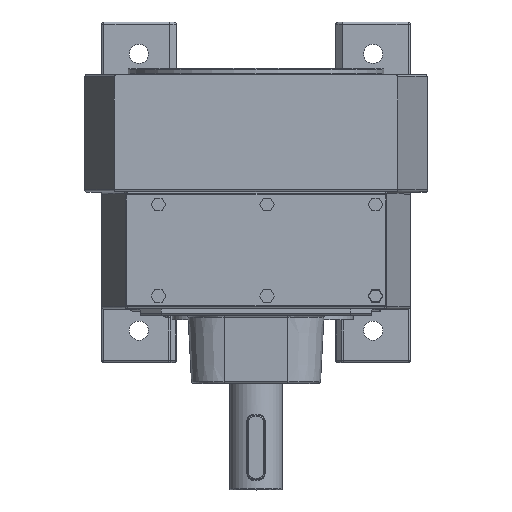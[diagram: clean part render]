
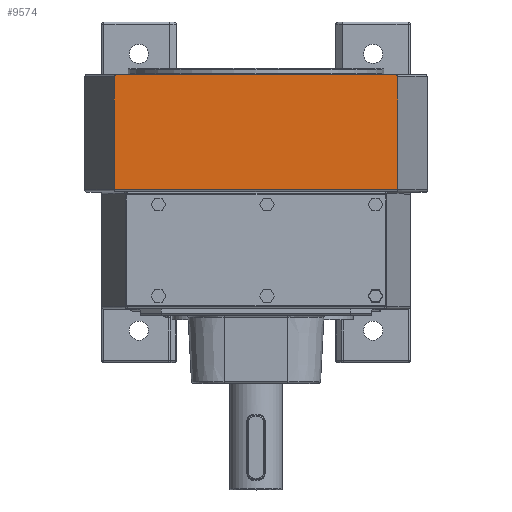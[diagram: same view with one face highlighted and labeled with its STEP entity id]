
A CAD part, top view. The second image highlights one B-rep face of the part: STEP entity #9574.
In plain terms, the highlighted planar face has unit normal (0, 0, 1).
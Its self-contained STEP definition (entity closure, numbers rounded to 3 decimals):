
#1303=CARTESIAN_POINT('',(-66.5,54.0,151.0));
#1304=VERTEX_POINT('',#1303);
#1305=CARTESIAN_POINT('',(-65.419,55.0,151.0));
#1306=VERTEX_POINT('',#1305);
#1307=CARTESIAN_POINT('',(-65.419,54.0,151.));
#1308=DIRECTION('',(0.0,0.0,-1.0));
#1309=DIRECTION('',(-1.0,0.0,0.0));
#1310=AXIS2_PLACEMENT_3D('',#1307,#1308,#1309);
#1311=ELLIPSE('',#1310,1.081,1.);
#1312=EDGE_CURVE('',#1304,#1306,#1311,.T.);
#1550=CARTESIAN_POINT('',(65.419,55.0,151.));
#1551=VERTEX_POINT('',#1550);
#1552=CARTESIAN_POINT('',(65.419,55.0,151.));
#1553=DIRECTION('',(-1.0,0.0,0.0));
#1554=VECTOR('',#1553,130.837);
#1555=LINE('',#1552,#1554);
#1556=EDGE_CURVE('',#1551,#1306,#1555,.T.);
#1802=CARTESIAN_POINT('',(66.5,54.0,151.0));
#1803=VERTEX_POINT('',#1802);
#1804=CARTESIAN_POINT('',(65.419,54.0,151.0));
#1805=DIRECTION('',(0.0,0.0,-1.0));
#1806=DIRECTION('',(1.0,0.0,0.0));
#1807=AXIS2_PLACEMENT_3D('',#1804,#1805,#1806);
#1808=ELLIPSE('',#1807,1.081,1.);
#1809=EDGE_CURVE('',#1551,#1803,#1808,.T.);
#2036=CARTESIAN_POINT('',(-66.5,1.0,151.0));
#2037=VERTEX_POINT('',#2036);
#2068=CARTESIAN_POINT('',(66.5,1.,151.0));
#2069=VERTEX_POINT('',#2068);
#2077=CARTESIAN_POINT('',(66.5,1.,151.));
#2078=DIRECTION('',(-1.0,0.0,0.0));
#2079=VECTOR('',#2078,133.);
#2080=LINE('',#2077,#2079);
#2081=EDGE_CURVE('',#2069,#2037,#2080,.T.);
#9551=CARTESIAN_POINT('',(0.0,0.0,151.0));
#9552=DIRECTION('',(0.0,0.0,1.0));
#9553=DIRECTION('',(1.0,0.0,0.0));
#9554=AXIS2_PLACEMENT_3D('',#9551,#9552,#9553);
#9555=PLANE('',#9554);
#9556=ORIENTED_EDGE('',*,*,#1312,.F.);
#9557=CARTESIAN_POINT('',(-66.5,1.0,151.0));
#9558=DIRECTION('',(0.0,1.0,0.0));
#9559=VECTOR('',#9558,53.0);
#9560=LINE('',#9557,#9559);
#9561=EDGE_CURVE('',#2037,#1304,#9560,.T.);
#9562=ORIENTED_EDGE('',*,*,#9561,.F.);
#9563=ORIENTED_EDGE('',*,*,#2081,.F.);
#9564=CARTESIAN_POINT('',(66.5,1.,151.0));
#9565=DIRECTION('',(0.0,1.0,0.0));
#9566=VECTOR('',#9565,53.0);
#9567=LINE('',#9564,#9566);
#9568=EDGE_CURVE('',#2069,#1803,#9567,.T.);
#9569=ORIENTED_EDGE('',*,*,#9568,.T.);
#9570=ORIENTED_EDGE('',*,*,#1809,.F.);
#9571=ORIENTED_EDGE('',*,*,#1556,.T.);
#9572=EDGE_LOOP('',(#9556,#9562,#9563,#9569,#9570,#9571));
#9573=FACE_OUTER_BOUND('',#9572,.T.);
#9574=ADVANCED_FACE('',(#9573),#9555,.T.);
